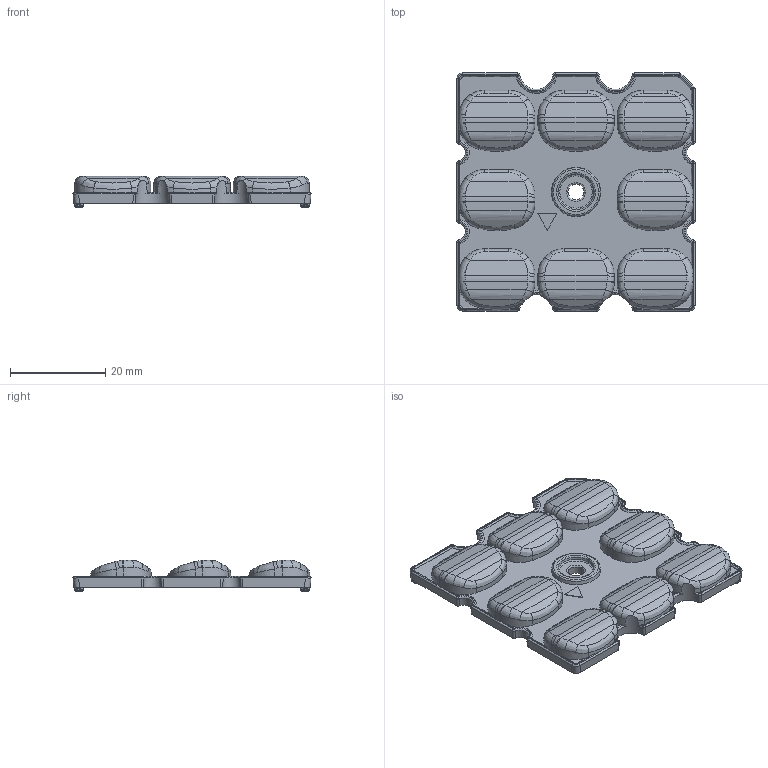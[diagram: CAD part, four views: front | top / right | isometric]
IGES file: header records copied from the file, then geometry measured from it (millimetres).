
Global section: file name: C:\CoreTechnologie\3D-In/022YS03Y05.igs; native system: CT CoreTechnologie 3D Evolution; preprocessor: 2006; date: 1200809.105053; units: millimetre
Bounding box: 49.9 x 49.9 x 6.57 mm (x, y, z)
Volume: 8416.8 mm3; surface area: 6430.4 mm2
Topology: 1 solids, 1 shells, 762 faces, 1928 edges, 1207 vertices
Faces by surface type: revolution 339, plane 252, bspline 171
